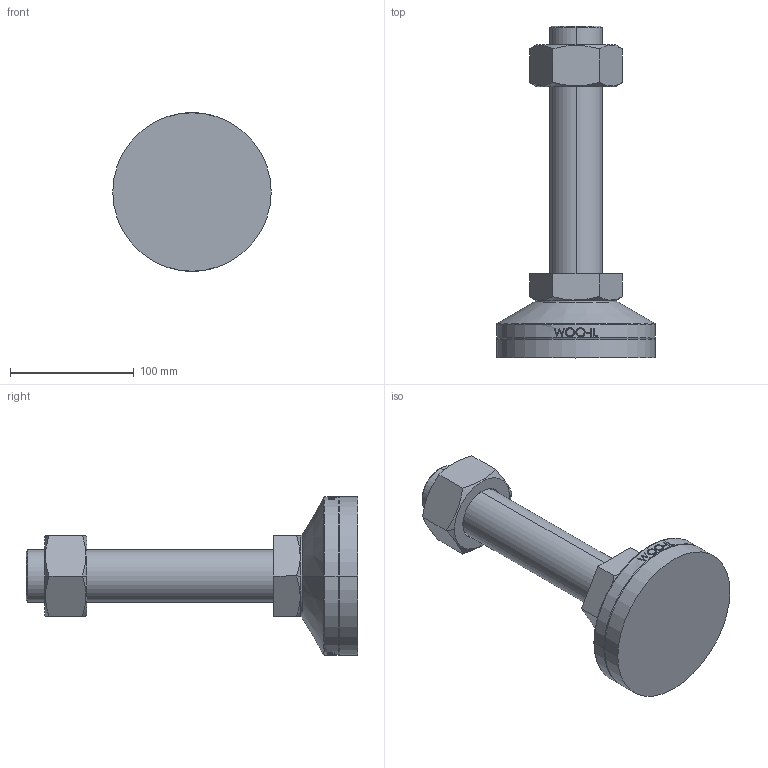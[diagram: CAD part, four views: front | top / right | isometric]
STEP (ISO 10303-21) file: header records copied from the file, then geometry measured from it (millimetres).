
FILE_DESCRIPTION (( 'STEP AP214' ), '1' );
FILE_NAME ('MFR128-M42-200.step', '2021-01-15T08:02:36', ( '' ), ( '' ), 'SwSTEP 2.0', 'SolidWorks 2019', '' );
FILE_SCHEMA (( 'AUTOMOTIVE_DESIGN' ));
Length unit declared in the file: millimetre
Products named in the file (2): MFR128-M42-200
Bounding box: 128 x 268 x 128 mm (x, y, z)
Volume: 919868.8 mm3; surface area: 138218.4 mm2
Topology: 4 solids, 4 shells, 154 faces, 364 edges, 236 vertices
Faces by surface type: plane 82, bspline 32, cylinder 20, cone 14, torus 6
Entity records: 7300 total; most frequent: CARTESIAN_POINT 3918, ORIENTED_EDGE 728, DIRECTION 588, EDGE_CURVE 364, VERTEX_POINT 236, AXIS2_PLACEMENT_3D 206, VECTOR 176, LINE 176
